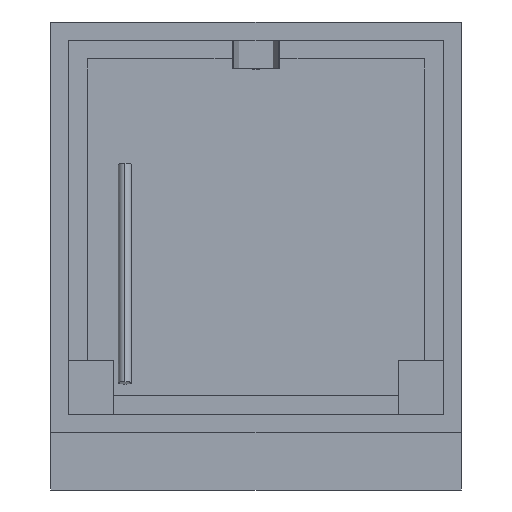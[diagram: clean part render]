
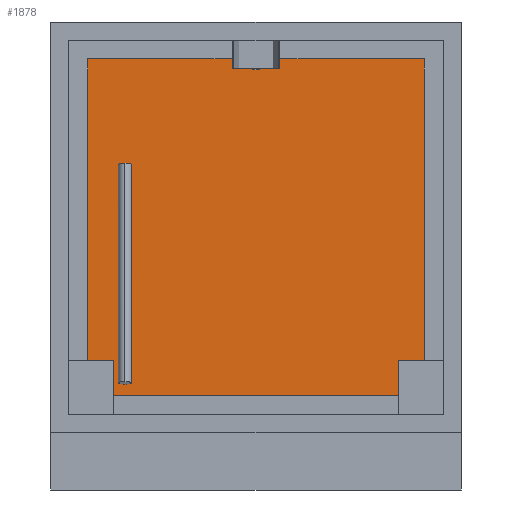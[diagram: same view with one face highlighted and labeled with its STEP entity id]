
A CAD part, front view. The second image highlights one B-rep face of the part: STEP entity #1878.
In plain terms, the highlighted planar face has unit normal (0, -1, 0).
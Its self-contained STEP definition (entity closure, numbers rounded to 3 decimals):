
#304=DIRECTION('',(0.,0.,-1.));
#305=VECTOR('',#304,75.);
#306=CARTESIAN_POINT('',(-305.,-86.,-285.));
#307=LINE('',#306,#305);
#380=DIRECTION('',(-1.,0.,0.));
#381=VECTOR('',#380,55.);
#382=CARTESIAN_POINT('',(-305.,-86.,-285.));
#383=LINE('',#382,#381);
#400=CARTESIAN_POINT('',(0.,-86.,365.));
#401=DIRECTION('',(0.,1.,0.));
#402=DIRECTION('',(0.984,0.,-0.179));
#403=AXIS2_PLACEMENT_3D('',#400,#401,#402);
#405=DIRECTION('',(-1.,0.,0.));
#406=VECTOR('',#405,332.45);
#407=CARTESIAN_POINT('',(360.,-86.,360.));
#408=LINE('',#407,#406);
#409=DIRECTION('',(0.,0.,1.));
#410=VECTOR('',#409,645.);
#411=CARTESIAN_POINT('',(360.,-86.,-285.));
#412=LINE('',#411,#410);
#413=DIRECTION('',(1.,0.,0.));
#414=VECTOR('',#413,610.);
#415=CARTESIAN_POINT('',(-305.,-86.,-360.));
#416=LINE('',#415,#414);
#417=DIRECTION('',(0.,0.,-1.));
#418=VECTOR('',#417,645.);
#419=CARTESIAN_POINT('',(-360.,-86.,360.));
#420=LINE('',#419,#418);
#421=DIRECTION('',(-1.,0.,0.));
#422=VECTOR('',#421,332.45);
#423=CARTESIAN_POINT('',(-27.55,-86.,360.));
#424=LINE('',#423,#422);
#425=CARTESIAN_POINT('',(-267.403,-86.,133.255));
#426=CARTESIAN_POINT('',(-267.595,-86.,131.137));
#427=CARTESIAN_POINT('',(-268.022,-86.,126.946));
#428=CARTESIAN_POINT('',(-268.801,-86.,120.812));
#429=CARTESIAN_POINT('',(-269.735,-86.,114.847));
#430=CARTESIAN_POINT('',(-270.666,-86.,110.044));
#431=CARTESIAN_POINT('',(-271.527,-86.,106.329));
#432=CARTESIAN_POINT('',(-272.24,-86.,103.616));
#433=CARTESIAN_POINT('',(-273.033,-86.,100.991));
#434=CARTESIAN_POINT('',(-273.925,-86.,98.474));
#435=CARTESIAN_POINT('',(-274.774,-86.,96.493));
#436=CARTESIAN_POINT('',(-275.545,-86.,95.008));
#437=CARTESIAN_POINT('',(-276.179,-86.,93.956));
#438=CARTESIAN_POINT('',(-276.887,-86.,92.984));
#439=CARTESIAN_POINT('',(-277.695,-86.,92.122));
#440=CARTESIAN_POINT('',(-278.493,-86.,91.541));
#441=CARTESIAN_POINT('',(-279.272,-86.,91.229));
#442=CARTESIAN_POINT('',(-279.734,-86.,91.153));
#443=CARTESIAN_POINT('',(-280.,-86.,91.153));
#445=DIRECTION('',(1.,0.,0.));
#446=VECTOR('',#445,25.194);
#447=CARTESIAN_POINT('',(-292.597,-86.,133.255));
#448=LINE('',#447,#446);
#449=CARTESIAN_POINT('',(-280.,-86.,91.153));
#450=CARTESIAN_POINT('',(-280.266,-86.,91.153));
#451=CARTESIAN_POINT('',(-280.728,-86.,91.229));
#452=CARTESIAN_POINT('',(-281.507,-86.,91.541));
#453=CARTESIAN_POINT('',(-282.305,-86.,92.122));
#454=CARTESIAN_POINT('',(-283.113,-86.,92.984));
#455=CARTESIAN_POINT('',(-283.821,-86.,93.956));
#456=CARTESIAN_POINT('',(-284.455,-86.,95.008));
#457=CARTESIAN_POINT('',(-285.226,-86.,96.493));
#458=CARTESIAN_POINT('',(-286.075,-86.,98.474));
#459=CARTESIAN_POINT('',(-286.967,-86.,100.991));
#460=CARTESIAN_POINT('',(-287.76,-86.,103.616));
#461=CARTESIAN_POINT('',(-288.473,-86.,106.329));
#462=CARTESIAN_POINT('',(-289.334,-86.,110.044));
#463=CARTESIAN_POINT('',(-290.265,-86.,114.847));
#464=CARTESIAN_POINT('',(-291.199,-86.,120.812));
#465=CARTESIAN_POINT('',(-291.978,-86.,126.946));
#466=CARTESIAN_POINT('',(-292.405,-86.,131.137));
#467=CARTESIAN_POINT('',(-292.597,-86.,133.255));
#489=DIRECTION('',(1.,0.,0.));
#490=VECTOR('',#489,55.);
#491=CARTESIAN_POINT('',(305.,-86.,-285.));
#492=LINE('',#491,#490);
#754=DIRECTION('',(0.,0.,-1.));
#755=VECTOR('',#754,75.);
#756=CARTESIAN_POINT('',(305.,-86.,-285.));
#757=LINE('',#756,#755);
#1257=CARTESIAN_POINT('',(27.55,-86.,360.));
#1258=CARTESIAN_POINT('',(-27.55,-86.,360.));
#1259=VERTEX_POINT('',#1257);
#1260=VERTEX_POINT('',#1258);
#1341=CARTESIAN_POINT('',(-280.,-86.,91.153));
#1342=VERTEX_POINT('',#1341);
#1343=VERTEX_POINT('',#425);
#1344=VERTEX_POINT('',#467);
#1353=CARTESIAN_POINT('',(-360.,-86.,360.));
#1354=CARTESIAN_POINT('',(-360.,-86.,-285.));
#1355=VERTEX_POINT('',#1353);
#1356=VERTEX_POINT('',#1354);
#1357=CARTESIAN_POINT('',(-305.,-86.,-360.));
#1358=CARTESIAN_POINT('',(305.,-86.,-360.));
#1359=VERTEX_POINT('',#1357);
#1360=VERTEX_POINT('',#1358);
#1361=CARTESIAN_POINT('',(360.,-86.,-285.));
#1362=CARTESIAN_POINT('',(360.,-86.,360.));
#1363=VERTEX_POINT('',#1361);
#1364=VERTEX_POINT('',#1362);
#1381=CARTESIAN_POINT('',(-305.,-86.,-285.));
#1382=VERTEX_POINT('',#1381);
#1383=CARTESIAN_POINT('',(305.,-86.,-285.));
#1384=VERTEX_POINT('',#1383);
#1846=CARTESIAN_POINT('',(0.,-86.,0.));
#1847=DIRECTION('',(0.,-1.,0.));
#1848=DIRECTION('',(1.,0.,0.));
#1849=AXIS2_PLACEMENT_3D('',#1846,#1847,#1848);
#1850=PLANE('',#1849);
#1852=ORIENTED_EDGE('',*,*,#1851,.F.);
#1854=ORIENTED_EDGE('',*,*,#1853,.F.);
#1856=ORIENTED_EDGE('',*,*,#1855,.F.);
#1858=ORIENTED_EDGE('',*,*,#1857,.F.);
#1860=ORIENTED_EDGE('',*,*,#1859,.T.);
#1862=ORIENTED_EDGE('',*,*,#1861,.F.);
#1863=ORIENTED_EDGE('',*,*,#1673,.F.);
#1864=ORIENTED_EDGE('',*,*,#1795,.T.);
#1865=ORIENTED_EDGE('',*,*,#1837,.F.);
#1867=ORIENTED_EDGE('',*,*,#1866,.F.);
#1868=EDGE_LOOP('',(#1852,#1854,#1856,#1858,#1860,#1862,#1863,#1864,#1865,
#1867));
#1869=FACE_OUTER_BOUND('',#1868,.F.);
#1871=ORIENTED_EDGE('',*,*,#1870,.F.);
#1873=ORIENTED_EDGE('',*,*,#1872,.F.);
#1875=ORIENTED_EDGE('',*,*,#1874,.F.);
#1876=EDGE_LOOP('',(#1871,#1873,#1875));
#1877=FACE_BOUND('',#1876,.F.);
#404=CIRCLE('',#403,28.);
#444=B_SPLINE_CURVE_WITH_KNOTS('',3,(#425,#426,#427,#428,#429,#430,#431,#432,
#433,#434,#435,#436,#437,#438,#439,#440,#441,#442,#443),.UNSPECIFIED.,.F.,.F.,
(4,1,1,1,1,1,1,1,1,1,1,1,1,1,1,1,4),(0.,0.125,0.25,0.375,0.5,0.563,
0.625,0.688,0.75,0.813,0.844,0.875,0.906,0.938,0.969,
0.984,1.),.UNSPECIFIED.);
#468=B_SPLINE_CURVE_WITH_KNOTS('',3,(#449,#450,#451,#452,#453,#454,#455,#456,
#457,#458,#459,#460,#461,#462,#463,#464,#465,#466,#467),.UNSPECIFIED.,.F.,.F.,
(4,1,1,1,1,1,1,1,1,1,1,1,1,1,1,1,4),(0.,0.016,0.031,0.063,0.094,
0.125,0.156,0.188,0.25,0.313,0.375,0.438,0.5,0.625,
0.75,0.875,1.),.UNSPECIFIED.);
#1673=EDGE_CURVE('',#1382,#1359,#307,.T.);
#1795=EDGE_CURVE('',#1382,#1356,#383,.T.);
#1837=EDGE_CURVE('',#1355,#1356,#420,.T.);
#1851=EDGE_CURVE('',#1259,#1260,#404,.T.);
#1853=EDGE_CURVE('',#1364,#1259,#408,.T.);
#1855=EDGE_CURVE('',#1363,#1364,#412,.T.);
#1857=EDGE_CURVE('',#1384,#1363,#492,.T.);
#1859=EDGE_CURVE('',#1384,#1360,#757,.T.);
#1861=EDGE_CURVE('',#1359,#1360,#416,.T.);
#1866=EDGE_CURVE('',#1260,#1355,#424,.T.);
#1870=EDGE_CURVE('',#1343,#1342,#444,.T.);
#1872=EDGE_CURVE('',#1344,#1343,#448,.T.);
#1874=EDGE_CURVE('',#1342,#1344,#468,.T.);
#1878=ADVANCED_FACE('',(#1869,#1877),#1850,.T.);
